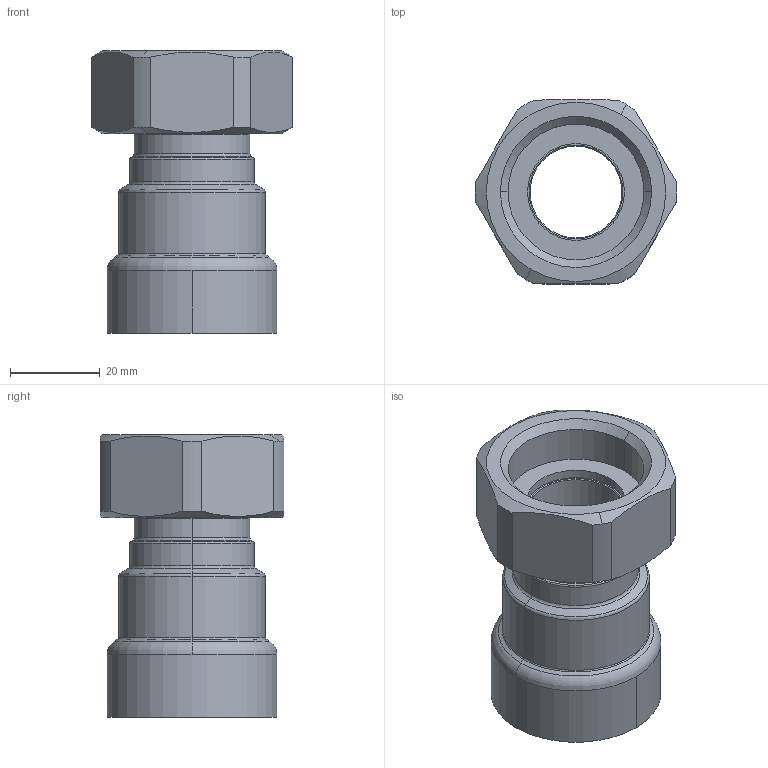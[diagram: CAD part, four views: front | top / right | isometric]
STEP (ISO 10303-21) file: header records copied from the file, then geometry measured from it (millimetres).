
FILE_DESCRIPTION(('Creo Elements/Direct Modeling STEP Export'),'2;1');
FILE_NAME('C9446_3-4_G1.stp','2020-07-20T14:21:28',(''),(''),'PTC Creo Elements/Direct Modeling STEP processor for AP214 (Solid Model)','PTC Creo Elements/Direct Modeling 19.0C 15-Aug-2015 (C) Parametric Technology GmbH','');
FILE_SCHEMA(('AUTOMOTIVE_DESIGN { 1 0 10303 214 1 1 1 1 }'));
Length unit declared in the file: millimetre
Products named in the file (2): C9446_3-4_G1
Assembly tree (1 placements, depth 2):
  C9446_3-4_G1
    C9446_3-4_G1
Bounding box: 44.98 x 41 x 63 mm (x, y, z)
Volume: 31666.1 mm3; surface area: 15104.2 mm2
Topology: 1 solids, 1 shells, 62 faces, 141 edges, 85 vertices
Faces by surface type: cylinder 22, cone 14, torus 14, plane 12
Entity records: 2529 total; most frequent: CARTESIAN_POINT 1154, ORIENTED_EDGE 282, DIRECTION 272, EDGE_CURVE 141, AXIS2_PLACEMENT_3D 115, VERTEX_POINT 85, EDGE_LOOP 68, FACE_OUTER_BOUND 62
